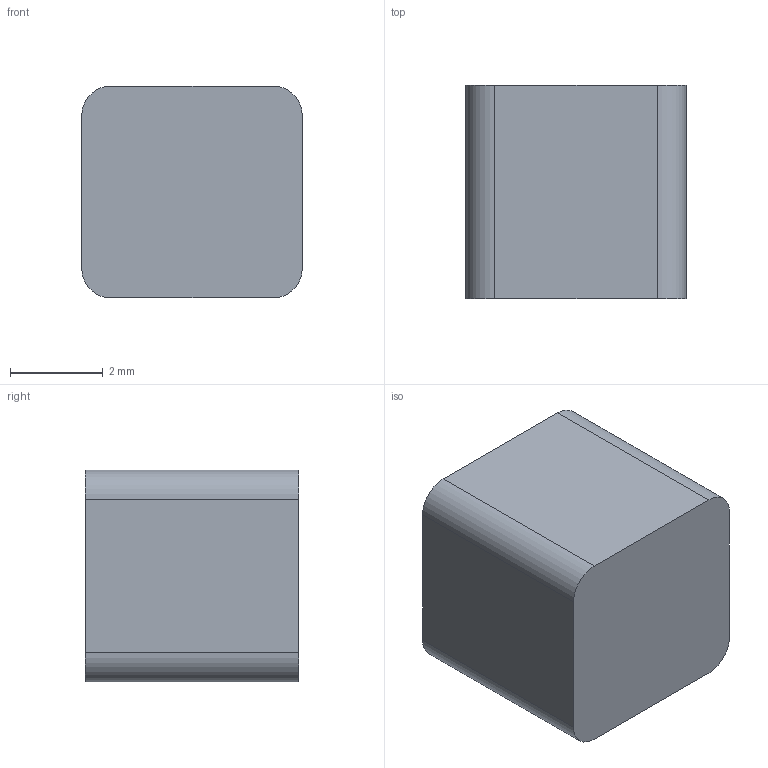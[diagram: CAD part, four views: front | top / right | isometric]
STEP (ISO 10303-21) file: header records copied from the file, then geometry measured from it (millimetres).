
FILE_DESCRIPTION(/* description */ ('STEP AP242 Edition 2','CAx-IF Rec.Pracs.---Representation and Presentation of Product Manufacturing Information (PMI)---4.0---2014-10-13','CAx-IF Rec.Pracs.---3D Tessellated Geometry---0.4---2014-09-14','2;1','CAx-IF Rec.Pracs.---User Defined Attributes---1.5---2016-08-15'),/* implementation_level */ '2;1');
FILE_NAME(/* name */ 'Assembly 1 - Part 63',/* time_stamp */ '2026-10-04T00:08:40Z',/* author */ (''),/* organization */ (''),/* preprocessor_version */ 'ST-DEVELOPER v20',/* originating_system */ 'ONSHAPE BY PTC INC, 1.221',/* authorisation */ ' ');
FILE_SCHEMA (('AP242_MANAGED_MODEL_BASED_3D_ENGINEERING_MIM_LF { 1 0 10303 442 3 1 4 }'));
Length unit declared in the file: metre
Products named in the file (1): Part 63
Bounding box: 4.75 x 4.6 x 4.56 mm (x, y, z)
Volume: 98.1 mm3; surface area: 123.4 mm2
Topology: 1 solids, 1 shells, 10 faces, 24 edges, 16 vertices
Faces by surface type: plane 6, cylinder 4
Entity records: 318 total; most frequent: DIRECTION 54, CARTESIAN_POINT 51, ORIENTED_EDGE 48, EDGE_CURVE 24, AXIS2_PLACEMENT_3D 19, VERTEX_POINT 16, LINE 16, VECTOR 16
